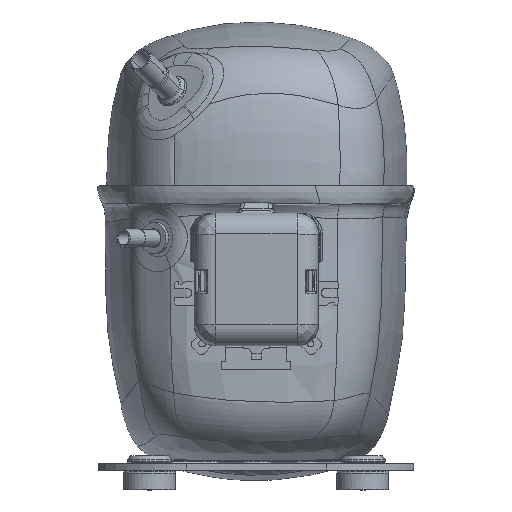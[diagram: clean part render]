
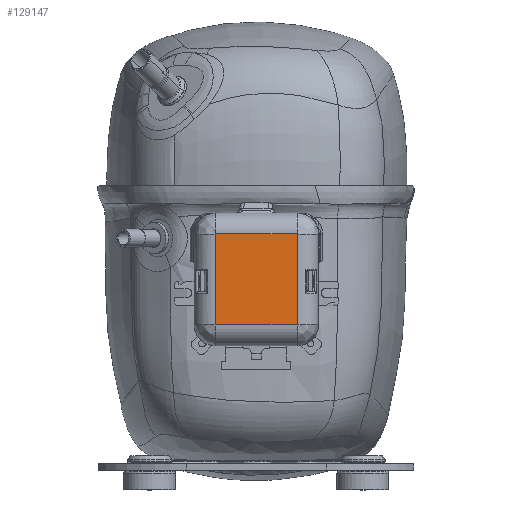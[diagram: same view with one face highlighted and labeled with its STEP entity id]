
A CAD part, top view. The second image highlights one B-rep face of the part: STEP entity #129147.
In plain terms, the highlighted planar face has unit normal (0, 0, 1) as drawn and (0, -1, 0) by its records, which use the part's own axes.
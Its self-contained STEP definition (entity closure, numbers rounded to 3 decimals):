
#123944=CARTESIAN_POINT('',(19.5,-2.2,21.45));
#123945=DIRECTION('',(0.,-1.,0.));
#123946=DIRECTION('',(1.,0.,0.));
#123947=AXIS2_PLACEMENT_3D('',#123944,#123945,#123946);
#123949=DIRECTION('',(0.,0.,1.));
#123950=VECTOR('',#123949,42.9);
#123951=CARTESIAN_POINT('',(19.7,-2.2,-21.45));
#123952=LINE('',#123951,#123950);
#123953=CARTESIAN_POINT('',(19.5,-2.2,-21.45));
#123954=DIRECTION('',(0.,-1.,0.));
#123955=DIRECTION('',(0.,0.,-1.));
#123956=AXIS2_PLACEMENT_3D('',#123953,#123954,#123955);
#123958=DIRECTION('',(1.,0.,0.));
#123959=VECTOR('',#123958,39.);
#123960=CARTESIAN_POINT('',(-19.5,-2.2,-21.65));
#123961=LINE('',#123960,#123959);
#123962=CARTESIAN_POINT('',(-19.5,-2.2,-21.45));
#123963=DIRECTION('',(0.,-1.,0.));
#123964=DIRECTION('',(-1.,0.,0.));
#123965=AXIS2_PLACEMENT_3D('',#123962,#123963,#123964);
#123967=DIRECTION('',(0.,0.,-1.));
#123968=VECTOR('',#123967,42.9);
#123969=CARTESIAN_POINT('',(-19.7,-2.2,21.45));
#123970=LINE('',#123969,#123968);
#123971=CARTESIAN_POINT('',(-19.5,-2.2,21.45));
#123972=DIRECTION('',(0.,-1.,0.));
#123973=DIRECTION('',(0.,0.,1.));
#123974=AXIS2_PLACEMENT_3D('',#123971,#123972,#123973);
#123976=DIRECTION('',(-1.,0.,0.));
#123977=VECTOR('',#123976,39.);
#123978=CARTESIAN_POINT('',(19.5,-2.2,21.65));
#123979=LINE('',#123978,#123977);
#128278=CARTESIAN_POINT('',(19.7,-2.2,21.45));
#128279=CARTESIAN_POINT('',(19.5,-2.2,21.65));
#128280=VERTEX_POINT('',#128278);
#128281=VERTEX_POINT('',#128279);
#128286=CARTESIAN_POINT('',(-19.5,-2.2,21.65));
#128287=VERTEX_POINT('',#128286);
#128290=CARTESIAN_POINT('',(-19.7,-2.2,21.45));
#128291=VERTEX_POINT('',#128290);
#128294=CARTESIAN_POINT('',(-19.7,-2.2,-21.45));
#128295=VERTEX_POINT('',#128294);
#128298=CARTESIAN_POINT('',(-19.5,-2.2,-21.65));
#128299=CARTESIAN_POINT('',(19.5,-2.2,-21.65));
#128300=VERTEX_POINT('',#128298);
#128301=VERTEX_POINT('',#128299);
#128306=CARTESIAN_POINT('',(19.7,-2.2,-21.45));
#128307=VERTEX_POINT('',#128306);
#129124=CARTESIAN_POINT('',(0.,-2.2,0.));
#129125=DIRECTION('',(0.,1.,0.));
#129126=DIRECTION('',(1.,0.,0.));
#129127=AXIS2_PLACEMENT_3D('',#129124,#129125,#129126);
#129128=PLANE('',#129127);
#129130=ORIENTED_EDGE('',*,*,#129129,.F.);
#129132=ORIENTED_EDGE('',*,*,#129131,.F.);
#129134=ORIENTED_EDGE('',*,*,#129133,.F.);
#129136=ORIENTED_EDGE('',*,*,#129135,.F.);
#129138=ORIENTED_EDGE('',*,*,#129137,.F.);
#129140=ORIENTED_EDGE('',*,*,#129139,.F.);
#129142=ORIENTED_EDGE('',*,*,#129141,.F.);
#129144=ORIENTED_EDGE('',*,*,#129143,.F.);
#129145=EDGE_LOOP('',(#129130,#129132,#129134,#129136,#129138,#129140,#129142,
#129144));
#129146=FACE_OUTER_BOUND('',#129145,.F.);
#129147=ADVANCED_FACE('',(#129146),#129128,.F.);
#123948=CIRCLE('',#123947,0.2);
#123957=CIRCLE('',#123956,0.2);
#123966=CIRCLE('',#123965,0.2);
#123975=CIRCLE('',#123974,0.2);
#129129=EDGE_CURVE('',#128280,#128281,#123948,.T.);
#129131=EDGE_CURVE('',#128307,#128280,#123952,.T.);
#129133=EDGE_CURVE('',#128301,#128307,#123957,.T.);
#129135=EDGE_CURVE('',#128300,#128301,#123961,.T.);
#129137=EDGE_CURVE('',#128295,#128300,#123966,.T.);
#129139=EDGE_CURVE('',#128291,#128295,#123970,.T.);
#129141=EDGE_CURVE('',#128287,#128291,#123975,.T.);
#129143=EDGE_CURVE('',#128281,#128287,#123979,.T.);
